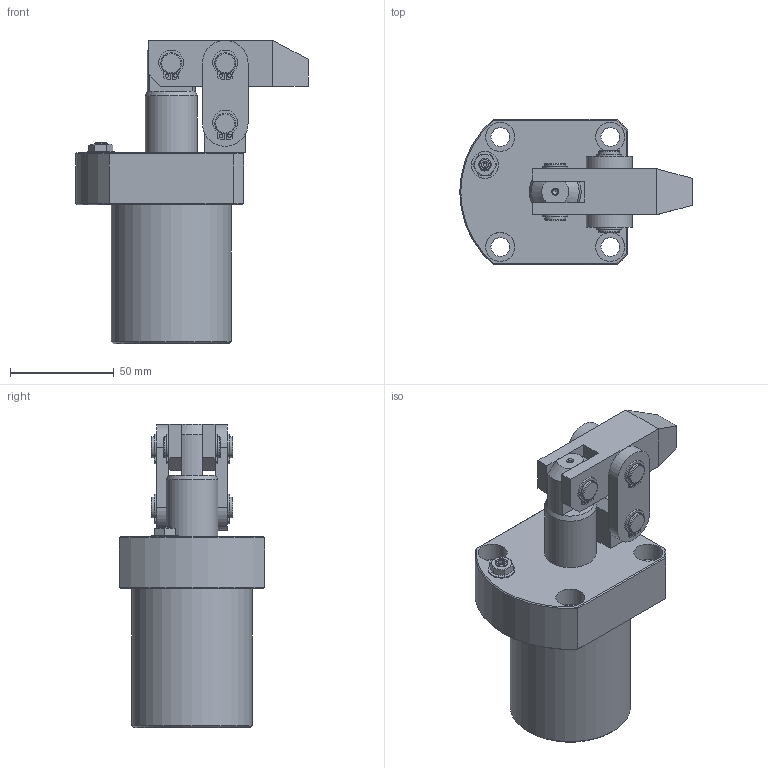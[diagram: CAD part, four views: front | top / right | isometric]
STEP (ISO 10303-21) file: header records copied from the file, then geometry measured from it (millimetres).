
FILE_DESCRIPTION(/* description */ ('Unknown'),/* implementation_level */ '2;1');
FILE_NAME(/* name */ 'HLB-FCM40-A',/* time_stamp */ '2025-06-02T03:55:15+08:00',/* author */ ('Unknown'),/* organization */ ('Unknown'),/* preprocessor_version */ 'ST-DEVELOPER v16.7',/* originating_system */ 'DEX',/* authorisation */ $);
FILE_SCHEMA (('AUTOMOTIVE_DESIGN {1 0 10303 214 3 1 1}'));
Length unit declared in the file: millimetre
Products named in the file (8): HLB-FCM40-A; HLB-FCM40-CYLINDER; HLB-40-墊; HLB-40-A; HLB-40-Cｦｩ｣迺ｰ; HLB-4002-AXLE CENTRE; HLB-40-PINµu; HLB-40-PINªø
Assembly tree (14 placements, depth 2):
  HLB-FCM40-A
    HLB-FCM40-CYLINDER
    HLB-40-墊  x2
    HLB-40-A
    HLB-40-Cｦｩ｣迺ｰ  x6
    HLB-4002-AXLE CENTRE
    HLB-40-PINµu
    HLB-40-PINªø  x2
Bounding box: 112 x 70 x 146.2 mm (x, y, z)
Volume: 335482.3 mm3; surface area: 74589.3 mm2
Topology: 14 solids, 14 shells, 284 faces, 652 edges, 426 vertices
Faces by surface type: plane 126, cylinder 115, cone 23, bspline 12, torus 8
Full cylindrical faces by diameter (mm): 1.7 x12, 2.496 x1, 3 x2, 4.1 x2, 6 x1, 9 x4, 9.5 x7, 10 x17, 12 x2, 13 x1, 14 x4, 25 x2, 40 x2, 58 x1
Entity records: 5090 total; most frequent: CARTESIAN_POINT 1112, DIRECTION 779, ORIENTED_EDGE 660, EDGE_CURVE 330, AXIS2_PLACEMENT_3D 327, FACE_BOUND 292, EDGE_LOOP 291, VERTEX_POINT 244
